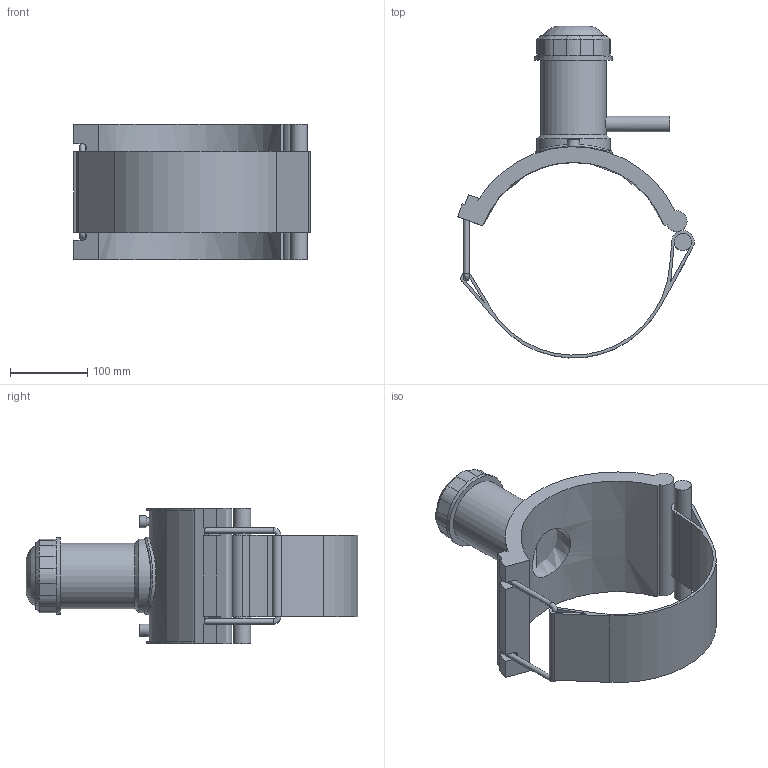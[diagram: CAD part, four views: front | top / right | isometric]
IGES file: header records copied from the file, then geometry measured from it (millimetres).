
Global section: file name: 496304250020.ipt; native system: Autodesk Inventor 2015; preprocessor: unknown; author: KIM; date: 20190124.131237; units: millimetre
Bounding box: 307.08 x 430.55 x 176 mm (x, y, z)
Volume: 1940130.1 mm3; surface area: 375021 mm2
Topology: 2 solids, 2 shells, 121 faces, 301 edges, 191 vertices
Faces by surface type: plane 68, cylinder 29, revolution 12, cone 11, bspline 1
Full cylindrical faces by diameter (mm): 4 x2, 7 x2, 20 x1, 22.115 x1, 85 x1, 95 x1, 100 x2
